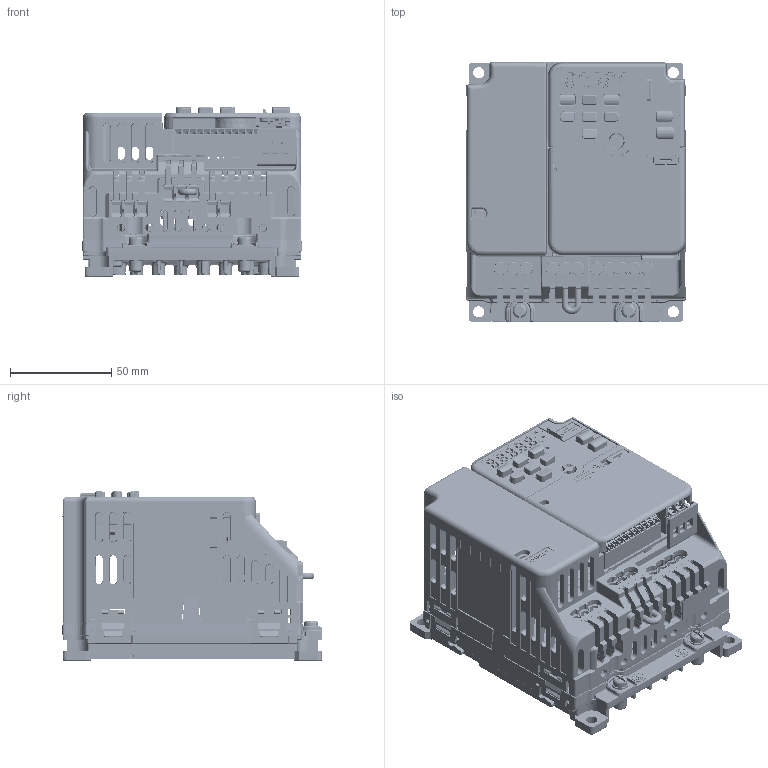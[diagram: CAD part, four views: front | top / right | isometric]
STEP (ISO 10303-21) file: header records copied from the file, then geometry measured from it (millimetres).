
FILE_DESCRIPTION((''),'2;1');
FILE_NAME('GA500_STD_FRAME_V2-C_ASM','2019-03-08T',('anm'),('YASKAWA ELECTRIC CORCORATION'),'PRO/ENGINEER BY PARAMETRIC TECHNOLOGY CORPORATION, 2015440','PRO/ENGINEER BY PARAMETRIC TECHNOLOGY CORPORATION, 2015440','');
FILE_SCHEMA(('CONFIG_CONTROL_DESIGN'));
Products named in the file (129): LAY_KIPR-GA50_Q_4001_1; 400-104-192_AF0_1; SCAT41279-1_1; 400-104-359_AF0_1; 400-104-288-01E-5_6PCB_AF0_1; MKDS5NHV_5-ZB-6P35_AF0_1; MKDS5NHV_3-ZB-6P35_AF0_1; ETP760581_6PCB_AF0_ASM_1_ASM; 400-104-288-01E-5_5PCB_AF0_1; MKDS5NHV_3-ZB-6P35_AF1_1; ETP760530_5PCB_AF0_ASM_1_ASM; 400-104-153_AF1_1; 400-104-153_AF0_ASM_1_ASM; 400-104-023-01F-5_1; 95003-2884_1; B12B-PASK-1_1; MANIFOLD_SOLID_BREP_304262; MANIFOLD_SOLID_BREP_304413; MANIFOLD_SOLID_BREP_304564; MANIFOLD_SOLID_BREP_304715; MANIFOLD_SOLID_BREP_304868; MANIFOLD_SOLID_BREP_305019; MANIFOLD_SOLID_BREP_305170; MANIFOLD_SOLID_BREP_305321; MANIFOLD_SOLID_BREP_305472; MANIFOLD_SOLID_BREP_305623; MANIFOLD_SOLID_BREP_305774; 1734753-1_AF1_1_ASM; MANIFOLD_SOLID_BREP_315693; MANIFOLD_SOLID_BREP_315877; MANIFOLD_SOLID_BREP_316061; MANIFOLD_SOLID_BREP_316245; MANIFOLD_SOLID_BREP_316429; MANIFOLD_SOLID_BREP_316580; MANIFOLD_SOLID_BREP_316731; MANIFOLD_SOLID_BREP_316882; MANIFOLD_SOLID_BREP_317033; MANIFOLD_SOLID_BREP_317184; MANIFOLD_SOLID_BREP_317335; MANIFOLD_SOLID_BREP_317486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
Assembly tree (130 placements, depth 6):
  GA500_STD_FRAME_V2-C_ASM
    KIPR-GA50_Q_4001_ASM_2_ASM
      LAY_KIPR-GA50_Q_4001_1
      400-104-192_AF0_1
      SCAT41279-1_1  x2
      400-104-359_AF0_1
      ETP760581_6PCB_AF0_ASM_1_ASM
        400-104-288-01E-5_6PCB_AF0_1
        MKDS5NHV_5-ZB-6P35_AF0_1
        MKDS5NHV_3-ZB-6P35_AF0_1
      ETP760530_5PCB_AF0_ASM_1_ASM
        400-104-288-01E-5_5PCB_AF0_1
        MKDS5NHV_3-ZB-6P35_AF1_1
      400-104-153_AF0_ASM_1_ASM
        400-104-153_AF1_1
      KTC750050-SXXXX_ASM_1_ASM
        400-104-023-01F-5_1
        95003-2884_1
        B12B-PASK-1_1
        1734753-1_AF1_1_ASM
          MANIFOLD_SOLID_BREP_304262
          MANIFOLD_SOLID_BREP_304413
          MANIFOLD_SOLID_BREP_304564
          MANIFOLD_SOLID_BREP_304715
          MANIFOLD_SOLID_BREP_304868
          MANIFOLD_SOLID_BREP_305019
          MANIFOLD_SOLID_BREP_305170
          MANIFOLD_SOLID_BREP_305321
          MANIFOLD_SOLID_BREP_305472
          MANIFOLD_SOLID_BREP_305623
          MANIFOLD_SOLID_BREP_305774
        DHB-PD20-S131N-4P9_AF1_1_ASM
          MANIFOLD_SOLID_BREP_315693
          MANIFOLD_SOLID_BREP_315877
          MANIFOLD_SOLID_BREP_316061
          MANIFOLD_SOLID_BREP_316245
          MANIFOLD_SOLID_BREP_316429
          MANIFOLD_SOLID_BREP_316580
          MANIFOLD_SOLID_BREP_316731
          MANIFOLD_SOLID_BREP_316882
          MANIFOLD_SOLID_BREP_317033
          MANIFOLD_SOLID_BREP_317184
          MANIFOLD_SOLID_BREP_317335
          MANIFOLD_SOLID_BREP_317486
          MANIFOLD_SOLID_BREP_317637
          MANIFOLD_SOLID_BREP_317788
          MANIFOLD_SOLID_BREP_317939
          MANIFOLD_SOLID_BREP_318090
          MANIFOLD_SOLID_BREP_318241
          MANIFOLD_SOLID_BREP_318392
          MANIFOLD_SOLID_BREP_318543
          MANIFOLD_SOLID_BREP_318694
          MANIFOLD_SOLID_BREP_318845
          MANIFOLD_SOLID_BREP_318996
          MANIFOLD_SOLID_BREP_319147
          MANIFOLD_SOLID_BREP_319298
          MANIFOLD_SOLID_BREP_319449
        KARI_SPTA1_9-3P5_AF0_1_ASM
          MANIFOLD_SOLID_BREP_326016
          MANIFOLD_SOLID_BREP_326167
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Bounding box: 108.58 x 128.29 x 83.75 mm (x, y, z)
Volume: 269404 mm3; surface area: 250252.5 mm2
Topology: 114 solids, 114 shells, 13898 faces, 37949 edges, 24398 vertices
Faces by surface type: plane 8967, cylinder 2991, cone 795, bspline 534, torus 403, sphere 208
Entity records: 466420 total; most frequent: CARTESIAN_POINT 117914, ORIENTED_EDGE 75202, DIRECTION 67284, EDGE_CURVE 37601, VECTOR 27334, LINE 27334, VERTEX_POINT 24320, AXIS2_PLACEMENT_3D 19975
